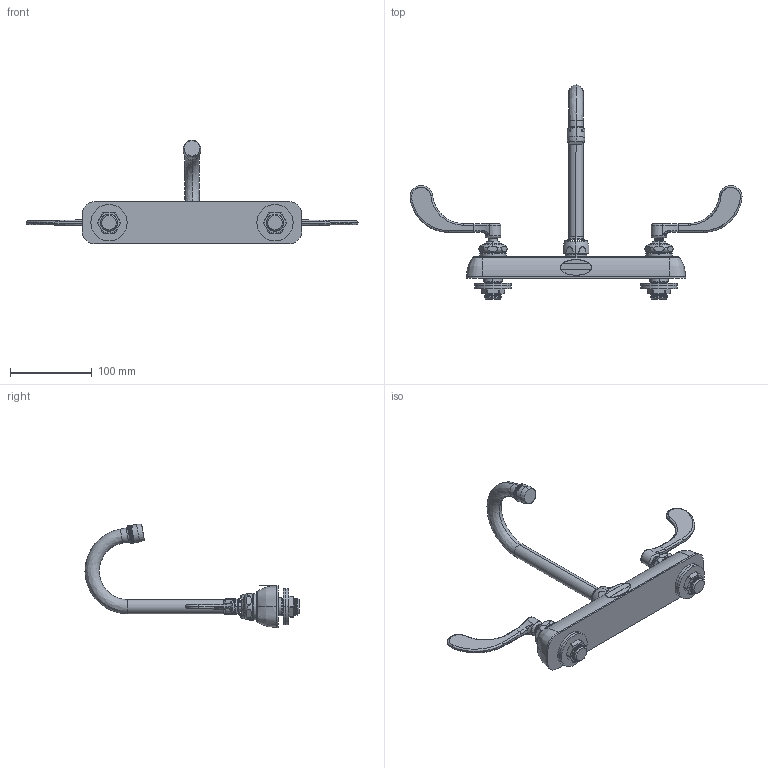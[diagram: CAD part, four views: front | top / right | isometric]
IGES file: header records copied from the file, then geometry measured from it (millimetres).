
Start section:  PTC IGES file: w8d-gn1ae35-317abcp_REV091112.igs
Global section: file name: w8d-gn1ae35-317abcp_REV091112.igs; native system: Pro/ENGINEER by Parametric Technology Corporation; preprocessor: 2011330; author: sdmitruk; organization: Unknown; date: 20120912.080604; units: inch
Bounding box: 406.4 x 261.97 x 126.89 mm (x, y, z)
Surface area: 110620.8 mm2 (no closed solid volume)
Topology: 0 solids, 0 shells, 391 faces, 3253 edges, 4370 vertices
Faces by surface type: revolution 269, bspline 122
